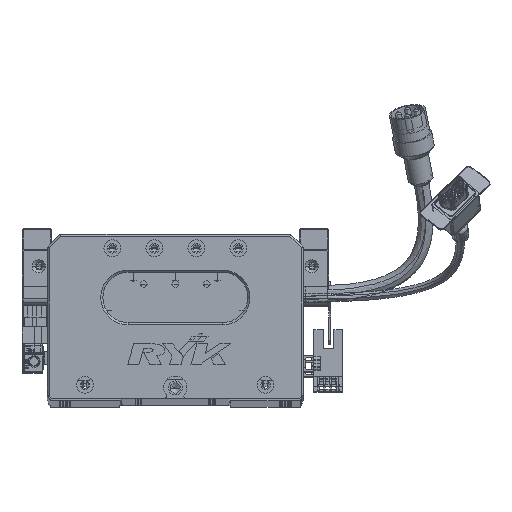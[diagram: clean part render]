
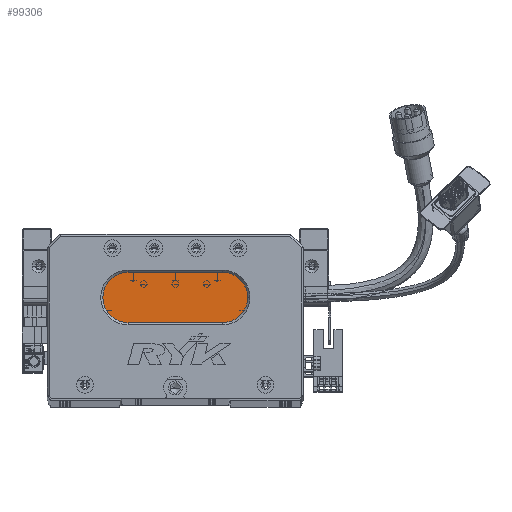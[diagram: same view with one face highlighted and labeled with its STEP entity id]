
A CAD part, top view. The second image highlights one B-rep face of the part: STEP entity #99306.
In plain terms, the highlighted planar face has unit normal (0, 0, 1) as drawn and (0, 0, -1) by its records, which use the part's own axes.
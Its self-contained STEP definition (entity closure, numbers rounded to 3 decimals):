
#1224 = DIRECTION ( 'NONE',  ( 0., 0., -1. ) ) ;
#2293 = CARTESIAN_POINT ( 'NONE',  ( 83.5, 48., 13. ) ) ;
#2608 = AXIS2_PLACEMENT_3D ( 'NONE', #92676, #59234, #84343 ) ;
#3490 = VERTEX_POINT ( 'NONE', #53250 ) ;
#3798 = ORIENTED_EDGE ( 'NONE', *, *, #90821, .T. ) ;
#3877 = DIRECTION ( 'NONE',  ( 0., 0., -1. ) ) ;
#6960 = VERTEX_POINT ( 'NONE', #58434 ) ;
#8860 = AXIS2_PLACEMENT_3D ( 'NONE', #2293, #1224, #93591 ) ;
#10090 = VERTEX_POINT ( 'NONE', #101021 ) ;
#10982 = LINE ( 'NONE', #64869, #17573 ) ;
#11082 = FACE_OUTER_BOUND ( 'NONE', #45455, .T. ) ;
#13988 = AXIS2_PLACEMENT_3D ( 'NONE', #103215, #3877, #62113 ) ;
#17573 = VECTOR ( 'NONE', #80209, 1000. ) ;
#23706 = VECTOR ( 'NONE', #85312, 1000. ) ;
#24079 = CIRCLE ( 'NONE', #34117, 12. ) ;
#25830 = CARTESIAN_POINT ( 'NONE',  ( 38.5, 36., 13. ) ) ;
#27132 = CARTESIAN_POINT ( 'NONE',  ( 83.5, 60., 13. ) ) ;
#34117 = AXIS2_PLACEMENT_3D ( 'NONE', #87720, #70241, #104428 ) ;
#43831 = CIRCLE ( 'NONE', #2608, 12. ) ;
#45455 = EDGE_LOOP ( 'NONE', ( #55207, #53212, #53643, #3798, #57699 ) ) ;
#46014 = CIRCLE ( 'NONE', #13988, 12. ) ;
#53212 = ORIENTED_EDGE ( 'NONE', *, *, #100039, .T. ) ;
#53250 = CARTESIAN_POINT ( 'NONE',  ( 83.5, 60., 13. ) ) ;
#53643 = ORIENTED_EDGE ( 'NONE', *, *, #58671, .T. ) ;
#55207 = ORIENTED_EDGE ( 'NONE', *, *, #98663, .T. ) ;
#56245 = LINE ( 'NONE', #27132, #23706 ) ;
#57699 = ORIENTED_EDGE ( 'NONE', *, *, #106088, .T. ) ;
#58434 = CARTESIAN_POINT ( 'NONE',  ( 38.5, 60., 13. ) ) ;
#58671 = EDGE_CURVE ( 'NONE', #59674, #10090, #24079, .T. ) ;
#59234 = DIRECTION ( 'NONE',  ( 0., 0., -1. ) ) ;
#59463 = PLANE ( 'NONE',  #8860 ) ;
#59674 = VERTEX_POINT ( 'NONE', #25830 ) ;
#62113 = DIRECTION ( 'NONE',  ( -1., 0., 0. ) ) ;
#64869 = CARTESIAN_POINT ( 'NONE',  ( 83.5, 36., 13. ) ) ;
#65568 = VERTEX_POINT ( 'NONE', #68413 ) ;
#68413 = CARTESIAN_POINT ( 'NONE',  ( 83.5, 36., 13. ) ) ;
#70241 = DIRECTION ( 'NONE',  ( 0., 0., -1. ) ) ;
#80209 = DIRECTION ( 'NONE',  ( -1., 0., 0. ) ) ;
#84343 = DIRECTION ( 'NONE',  ( -1., 0., 0. ) ) ;
#85312 = DIRECTION ( 'NONE',  ( 1., 0., 0. ) ) ;
#87720 = CARTESIAN_POINT ( 'NONE',  ( 38.5, 48., 13. ) ) ;
#90821 = EDGE_CURVE ( 'NONE', #10090, #6960, #46014, .T. ) ;
#92676 = CARTESIAN_POINT ( 'NONE',  ( 83.5, 48., 13. ) ) ;
#93591 = DIRECTION ( 'NONE',  ( -1., 0., 0. ) ) ;
#98663 = EDGE_CURVE ( 'NONE', #3490, #65568, #43831, .T. ) ;
#99306 = ADVANCED_FACE ( 'NONE', ( #11082 ), #59463, .T. ) ;
#100039 = EDGE_CURVE ( 'NONE', #65568, #59674, #10982, .T. ) ;
#101021 = CARTESIAN_POINT ( 'NONE',  ( 26.5, 48., 13. ) ) ;
#103215 = CARTESIAN_POINT ( 'NONE',  ( 38.5, 48., 13. ) ) ;
#104428 = DIRECTION ( 'NONE',  ( -1., 0., 0. ) ) ;
#106088 = EDGE_CURVE ( 'NONE', #6960, #3490, #56245, .T. ) ;
